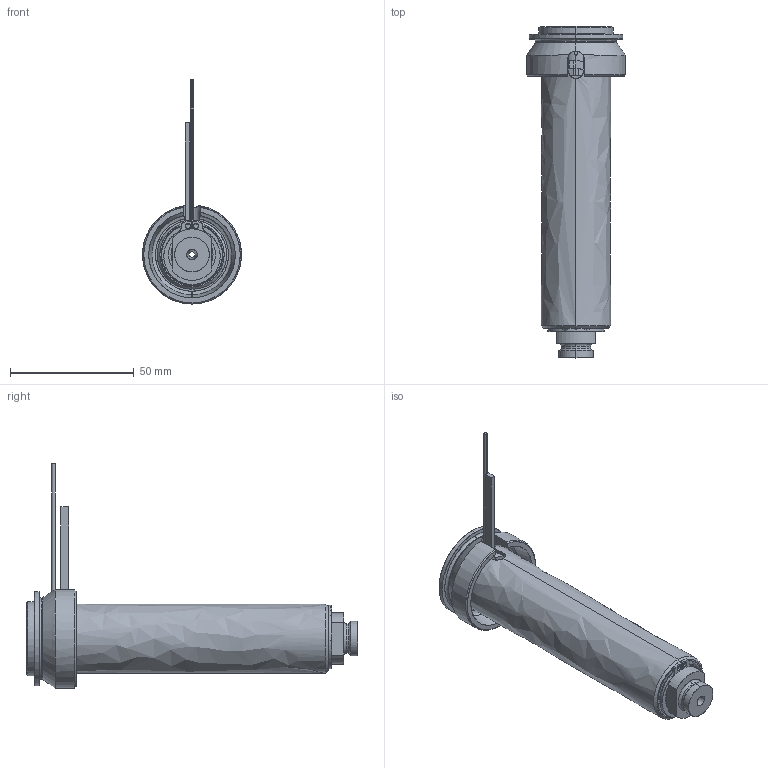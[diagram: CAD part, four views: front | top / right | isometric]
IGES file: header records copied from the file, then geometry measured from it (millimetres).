
Start section: SolidWorks IGES file using analytic representation for surfaces
Global section: file name: C:\Documents and Settings\ws-20\Desktop\TEMPORANEA\UGBE4003-M-A-5 [Ød-2.5 P-0 ØC-10].IGS; native system: SolidWorks 2012; preprocessor: SolidWorks 2012; author: ws-20; date: 120306.140817; units: millimetre
Bounding box: 40 x 134.25 x 90.65 mm (x, y, z)
Surface area: 41160.8 mm2 (no closed solid volume)
Topology: 0 solids, 0 shells, 104 faces, 1761 edges, 1761 vertices
Faces by surface type: revolution 60, bspline 44
